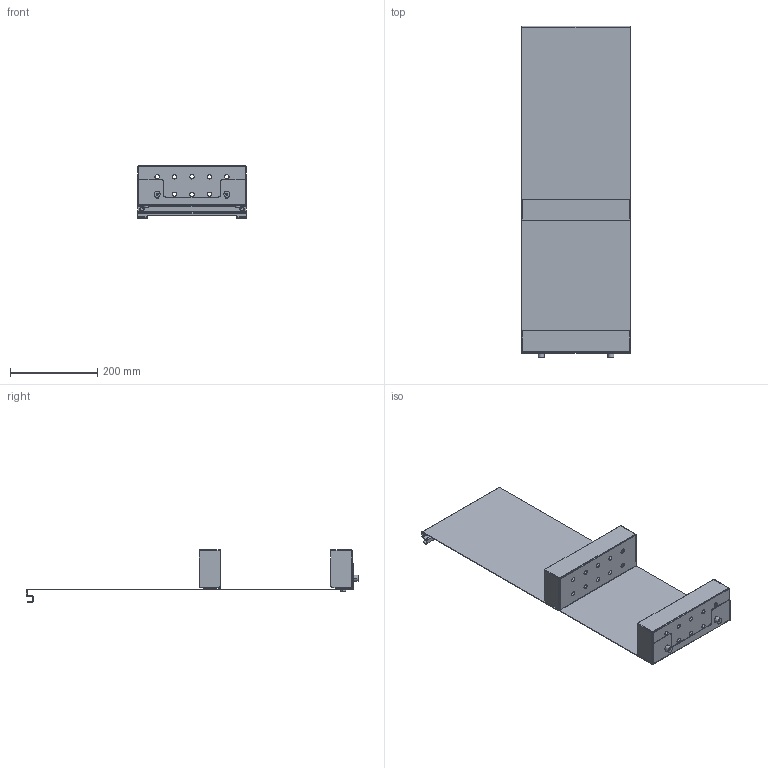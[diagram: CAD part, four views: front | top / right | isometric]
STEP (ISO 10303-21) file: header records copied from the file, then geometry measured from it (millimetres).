
FILE_DESCRIPTION (( 'STEP AP214' ), '1' );
FILE_NAME ('01-011-0250-W-00-00.STEP', '2023-05-29T11:05:13', ( '' ), ( '' ), 'SwSTEP 2.0', 'SolidWorks 2021', '' );
FILE_SCHEMA (( 'AUTOMOTIVE_DESIGN' ));
Length unit declared in the file: millimetre
Products named in the file (7): 01-011-0250-W-00-00; Nakrêtka FI14 M6; ARP-7.5 Odbojniki; SCREW_ISO 7046_VIJAK M 6X 12 ZN     ; stopka gumowa 10mm_7mm; 01-011-0250-W-00-02; 01-011-0250-W-00-01
Assembly tree (15 placements, depth 2):
  01-011-0250-W-00-00
    01-011-0250-W-00-01
    01-011-0250-W-00-02  x2
    ARP-7.5 Odbojniki  x2
    stopka gumowa 10mm_7mm  x2
    Nakrêtka FI14 M6  x4
    SCREW_ISO 7046_VIJAK M 6X 12 ZN       x4
Bounding box: 250 x 761.5 x 119.5 mm (x, y, z)
Volume: 418569.9 mm3; surface area: 627880.4 mm2
Topology: 15 solids, 15 shells, 458 faces, 1100 edges, 676 vertices
Faces by surface type: cylinder 210, plane 208, cone 32, torus 8
Entity records: 6988 total; most frequent: DIRECTION 1238, CARTESIAN_POINT 1138, ORIENTED_EDGE 1080, EDGE_CURVE 540, AXIS2_PLACEMENT_3D 461, VERTEX_POINT 329, LINE 316, VECTOR 316
